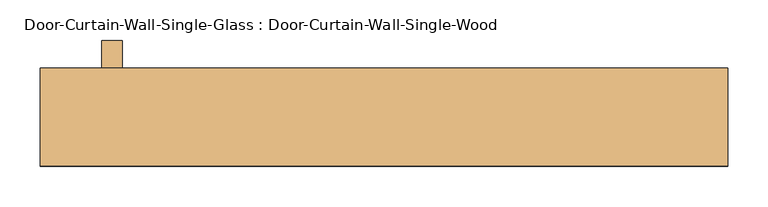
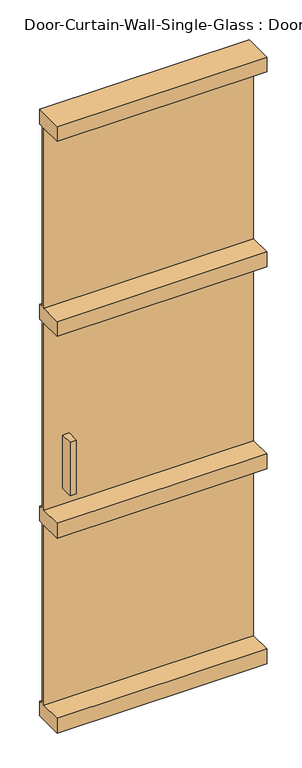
"""IFC4 building model written with IfcOpenShell, lengths in millimetres: door geometry, Door-Curtain-Wall-Single-Glass : Door-Curtain-Wall-Single-Wood."""

from ifc_helpers import new_model, si_unit, frame, origin, place, context, project, spatial, polyline, outline, extrude, source, transform, mapped, element, save


def door_curtain_wall_single_glass_door_curtain_wall_single_wood_ac3a5db4(model_context):
    return source(origin(), model_context, "Body", "SweptSolid", [
        extrude(outline(polyline([(-323.85, -12.7), (-349.25, -12.7), (-349.25, 38.1), (-323.85, 38.1), (-323.85, -12.7)])), frame((0.0, 0.0, 965.2), z_axis=(0.0, 0.0, 1.0), x_axis=(1.0, 0.0, 0.0)), (0.0, 0.0, 1.0), 228.6),
        extrude(outline(polyline([(-349.25, 101.6), (-323.85, 101.6), (-323.85, 50.8), (-349.25, 50.8), (-349.25, 101.6)])), frame((0.0, 0.0, 965.2), z_axis=(0.0, 0.0, 1.0), x_axis=(1.0, 0.0, 0.0)), (0.0, 0.0, 1.0), 228.6),
        extrude(outline(polyline([(-54.4331618, 2597.7570075), (67.2601642, 2597.7570075), (67.2601642, 2534.2570075), (50.8, 2534.2570075), (50.8, 1762.7320075), (67.2601642, 1762.7320075), (67.2601642, 1699.2320075), (50.8, 1699.2320075), (50.8, 898.525), (67.2601642, 898.525), (67.2601642, 835.025), (50.8, 835.025), (50.8, 63.5), (67.2601642, 63.5), (67.2601642, 0.0), (-54.4331618, 0.0), (-54.4331618, 63.5), (38.1, 63.5), (38.1, 835.025), (-54.4331618, 835.025), (-54.4331618, 898.525), (38.1, 898.525), (38.1, 1699.2320075), (-54.4331618, 1699.2320075), (-54.4331618, 1762.7320075), (38.1, 1762.7320075), (38.1, 2534.2570075), (-54.4331618, 2534.2570075), (-54.4331618, 2597.7570075)])), frame((-425.45, 0.0, 0.0), z_axis=(1.0, 0.0, 0.0), x_axis=(0.0, 1.0, 0.0)), (0.0, 0.0, 1.0), 850.9),
    ])


if __name__ == "__main__":
    model = new_model("IFC4")
    model_context = context("Model", 3, world=origin())
    ifc_project = project(units=[si_unit("LENGTHUNIT", "METRE", prefix="MILLI")], contexts=[model_context])
    site = spatial("IfcSite", under=ifc_project)
    building = spatial("IfcBuilding", under=site)
    placement = place(None, origin())
    door_curtain_wall_single_glass_door_curtain_wall_single_wood_shape = door_curtain_wall_single_glass_door_curtain_wall_single_wood_ac3a5db4(model_context)
    element("IfcDoor", 1, ObjectType="Door-Curtain-Wall-Single-Glass : Door-Curtain-Wall-Single-Wood", at=placement, inside=building, context=model_context, shape_type="MappedRepresentation", body=[
        mapped(door_curtain_wall_single_glass_door_curtain_wall_single_wood_shape, transform((0.0, 0.0, 0.0), x_axis=(1.0, 0.0, 0.0), y_axis=(0.0, 1.0, 0.0), z_axis=(0.0, 0.0, 1.0))),
    ])
    save(model, "model.ifc")
